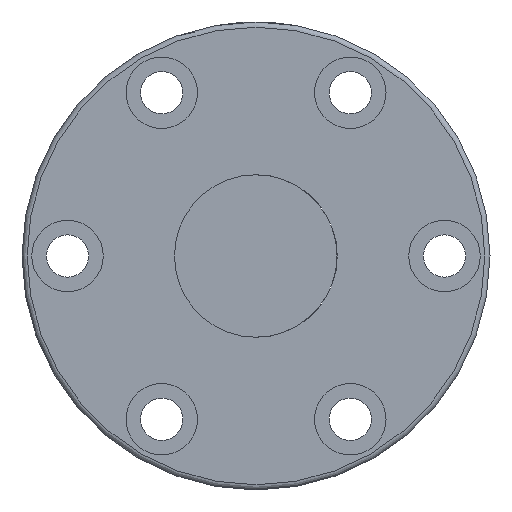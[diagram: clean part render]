
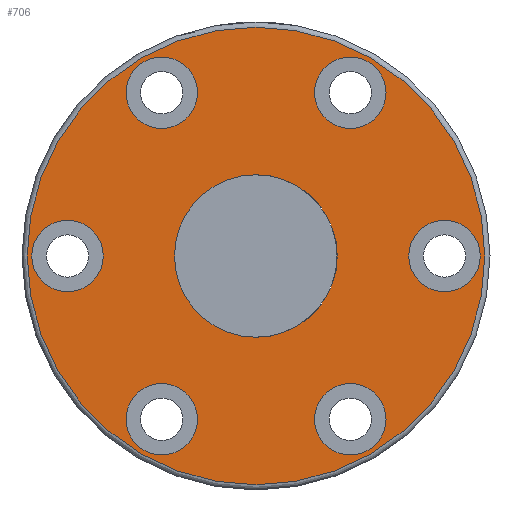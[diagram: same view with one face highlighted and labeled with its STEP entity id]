
A CAD part, front view. The second image highlights one B-rep face of the part: STEP entity #706.
In plain terms, the highlighted planar face has unit normal (0, -1, 0).
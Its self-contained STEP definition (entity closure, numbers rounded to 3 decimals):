
#21 = CIRCLE ( 'NONE', #583, 5.5 ) ;
#22 = AXIS2_PLACEMENT_3D ( 'NONE', #388, #603, #522 ) ;
#68 = ORIENTED_EDGE ( 'NONE', *, *, #1028, .T. ) ;
#92 = AXIS2_PLACEMENT_3D ( 'NONE', #232, #303, #777 ) ;
#105 = AXIS2_PLACEMENT_3D ( 'NONE', #1089, #1079, #195 ) ;
#145 = CARTESIAN_POINT ( 'NONE',  ( 29.039, -39.961, 5.5 ) ) ;
#160 = FACE_BOUND ( 'NONE', #1119, .T. ) ;
#168 = DIRECTION ( 'NONE',  ( 0., 1., 0. ) ) ;
#173 = CIRCLE ( 'NONE', #105, 5.5 ) ;
#190 = CIRCLE ( 'NONE', #808, 5.5 ) ;
#195 = DIRECTION ( 'NONE',  ( 0., 0., 1. ) ) ;
#201 = EDGE_CURVE ( 'NONE', #401, #401, #446, .T. ) ;
#221 = EDGE_LOOP ( 'NONE', ( #271 ) ) ;
#232 = CARTESIAN_POINT ( 'NONE',  ( -14.461, -39.961, 25.115 ) ) ;
#240 = ORIENTED_EDGE ( 'NONE', *, *, #440, .T. ) ;
#248 = VERTEX_POINT ( 'NONE', #610 ) ;
#269 = FACE_BOUND ( 'NONE', #319, .T. ) ;
#271 = ORIENTED_EDGE ( 'NONE', *, *, #393, .T. ) ;
#297 = FACE_BOUND ( 'NONE', #857, .T. ) ;
#298 = AXIS2_PLACEMENT_3D ( 'NONE', #554, #344, #975 ) ;
#303 = DIRECTION ( 'NONE',  ( 0., 1., 0. ) ) ;
#308 = CARTESIAN_POINT ( 'NONE',  ( -12.461, -39.961, 0. ) ) ;
#312 = EDGE_CURVE ( 'NONE', #1001, #1001, #513, .T. ) ;
#319 = EDGE_LOOP ( 'NONE', ( #771 ) ) ;
#321 = CIRCLE ( 'NONE', #567, 5.5 ) ;
#333 = DIRECTION ( 'NONE',  ( -1., 0., 0. ) ) ;
#344 = DIRECTION ( 'NONE',  ( 0., 1., 0. ) ) ;
#385 = EDGE_CURVE ( 'NONE', #590, #590, #321, .T. ) ;
#388 = CARTESIAN_POINT ( 'NONE',  ( 0.039, -39.961, 0. ) ) ;
#393 = EDGE_CURVE ( 'NONE', #497, #497, #512, .T. ) ;
#401 = VERTEX_POINT ( 'NONE', #754 ) ;
#413 = VERTEX_POINT ( 'NONE', #769 ) ;
#426 = FACE_OUTER_BOUND ( 'NONE', #221, .T. ) ;
#440 = EDGE_CURVE ( 'NONE', #413, #413, #659, .T. ) ;
#446 = CIRCLE ( 'NONE', #92, 5.5 ) ;
#452 = DIRECTION ( 'NONE',  ( 0., 1., 0. ) ) ;
#469 = EDGE_LOOP ( 'NONE', ( #1071 ) ) ;
#497 = VERTEX_POINT ( 'NONE', #854 ) ;
#512 = CIRCLE ( 'NONE', #22, 35.2 ) ;
#513 = CIRCLE ( 'NONE', #1124, 12.5 ) ;
#522 = DIRECTION ( 'NONE',  ( 0., 0., 1. ) ) ;
#523 = VERTEX_POINT ( 'NONE', #967 ) ;
#529 = FACE_BOUND ( 'NONE', #469, .T. ) ;
#554 = CARTESIAN_POINT ( 'NONE',  ( -28.961, -39.961, 0. ) ) ;
#567 = AXIS2_PLACEMENT_3D ( 'NONE', #905, #730, #1080 ) ;
#583 = AXIS2_PLACEMENT_3D ( 'NONE', #611, #694, #1067 ) ;
#590 = VERTEX_POINT ( 'NONE', #145 ) ;
#603 = DIRECTION ( 'NONE',  ( 0., -1., 0. ) ) ;
#610 = CARTESIAN_POINT ( 'NONE',  ( -14.461, -39.961, -19.615 ) ) ;
#611 = CARTESIAN_POINT ( 'NONE',  ( 14.539, -39.961, -25.115 ) ) ;
#616 = VERTEX_POINT ( 'NONE', #793 ) ;
#618 = CARTESIAN_POINT ( 'NONE',  ( 0.039, -39.961, 0. ) ) ;
#631 = PLANE ( 'NONE',  #1059 ) ;
#659 = CIRCLE ( 'NONE', #298, 5.5 ) ;
#660 = FACE_BOUND ( 'NONE', #1120, .T. ) ;
#684 = EDGE_LOOP ( 'NONE', ( #68 ) ) ;
#694 = DIRECTION ( 'NONE',  ( 0., 1., 0. ) ) ;
#706 = ADVANCED_FACE ( 'NONE', ( #297, #660, #879, #529, #716, #160, #426, #269 ), #631, .F. ) ;
#716 = FACE_BOUND ( 'NONE', #684, .T. ) ;
#730 = DIRECTION ( 'NONE',  ( 0., 1., 0. ) ) ;
#754 = CARTESIAN_POINT ( 'NONE',  ( -14.461, -39.961, 30.615 ) ) ;
#769 = CARTESIAN_POINT ( 'NONE',  ( -28.961, -39.961, 5.5 ) ) ;
#771 = ORIENTED_EDGE ( 'NONE', *, *, #312, .T. ) ;
#777 = DIRECTION ( 'NONE',  ( 0., 0., 1. ) ) ;
#793 = CARTESIAN_POINT ( 'NONE',  ( 14.539, -39.961, 30.615 ) ) ;
#805 = DIRECTION ( 'NONE',  ( 0., 0., 1. ) ) ;
#808 = AXIS2_PLACEMENT_3D ( 'NONE', #1049, #452, #805 ) ;
#854 = CARTESIAN_POINT ( 'NONE',  ( 0.039, -39.961, 35.2 ) ) ;
#857 = EDGE_LOOP ( 'NONE', ( #1096 ) ) ;
#868 = ORIENTED_EDGE ( 'NONE', *, *, #1053, .T. ) ;
#879 = FACE_BOUND ( 'NONE', #963, .T. ) ;
#884 = DIRECTION ( 'NONE',  ( 1., 0., 0. ) ) ;
#888 = DIRECTION ( 'NONE',  ( 0., 1., 0. ) ) ;
#905 = CARTESIAN_POINT ( 'NONE',  ( 29.039, -39.961, 0. ) ) ;
#963 = EDGE_LOOP ( 'NONE', ( #868 ) ) ;
#967 = CARTESIAN_POINT ( 'NONE',  ( 14.539, -39.961, -19.615 ) ) ;
#975 = DIRECTION ( 'NONE',  ( 0., 0., 1. ) ) ;
#1001 = VERTEX_POINT ( 'NONE', #308 ) ;
#1028 = EDGE_CURVE ( 'NONE', #616, #616, #190, .T. ) ;
#1039 = ORIENTED_EDGE ( 'NONE', *, *, #201, .T. ) ;
#1049 = CARTESIAN_POINT ( 'NONE',  ( 14.539, -39.961, 25.115 ) ) ;
#1053 = EDGE_CURVE ( 'NONE', #523, #523, #21, .T. ) ;
#1059 = AXIS2_PLACEMENT_3D ( 'NONE', #1118, #168, #884 ) ;
#1067 = DIRECTION ( 'NONE',  ( 0., 0., 1. ) ) ;
#1071 = ORIENTED_EDGE ( 'NONE', *, *, #1077, .T. ) ;
#1077 = EDGE_CURVE ( 'NONE', #248, #248, #173, .T. ) ;
#1079 = DIRECTION ( 'NONE',  ( 0., 1., 0. ) ) ;
#1080 = DIRECTION ( 'NONE',  ( 0., 0., 1. ) ) ;
#1089 = CARTESIAN_POINT ( 'NONE',  ( -14.461, -39.961, -25.115 ) ) ;
#1096 = ORIENTED_EDGE ( 'NONE', *, *, #385, .T. ) ;
#1118 = CARTESIAN_POINT ( 'NONE',  ( 0.039, -39.961, 0. ) ) ;
#1119 = EDGE_LOOP ( 'NONE', ( #1039 ) ) ;
#1120 = EDGE_LOOP ( 'NONE', ( #240 ) ) ;
#1124 = AXIS2_PLACEMENT_3D ( 'NONE', #618, #888, #333 ) ;
